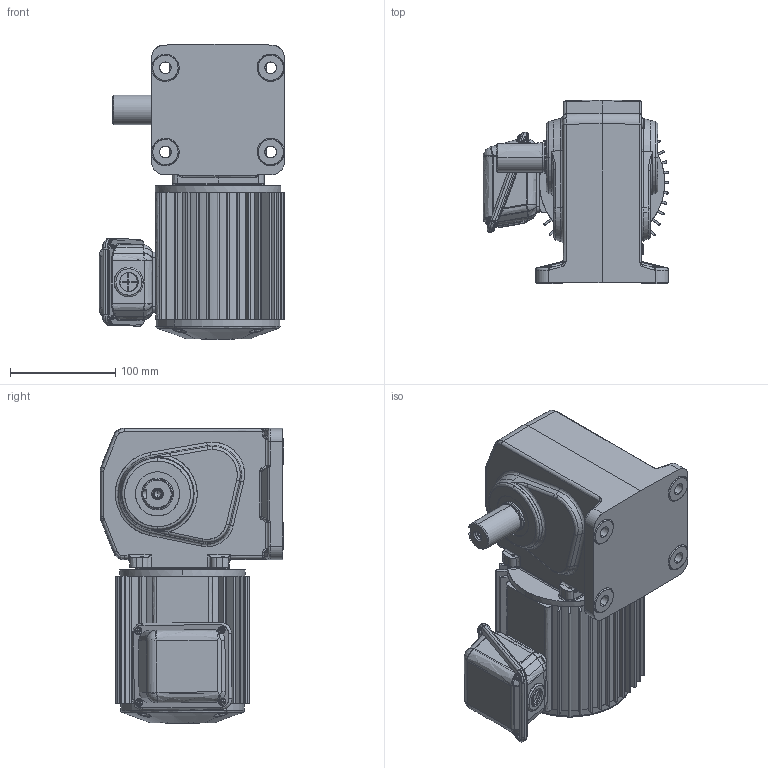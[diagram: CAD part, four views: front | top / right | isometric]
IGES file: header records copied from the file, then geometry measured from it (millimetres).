
Start section: SolidWorks IGES file using analytic representation for surfaces
Global section: file name: \\100.100.100.8\1_共有作業フォルダ\1-5_３Ｄデータ\solidworks\personal-folder\H.Nagayama\HL外形\HL(3D)\igs\TMHL-02-(80~240)A.IGS; native system: SolidWorks 2018; preprocessor: SolidWorks 2018; author: sigma-giken; date: 200324.171615; units: millimetre
Bounding box: 176.5 x 174.5 x 281 mm (x, y, z)
Surface area: 399049.1 mm2 (no closed solid volume)
Topology: 0 solids, 0 shells, 1494 faces, 18644 edges, 18579 vertices
Faces by surface type: bspline 753, revolution 741
